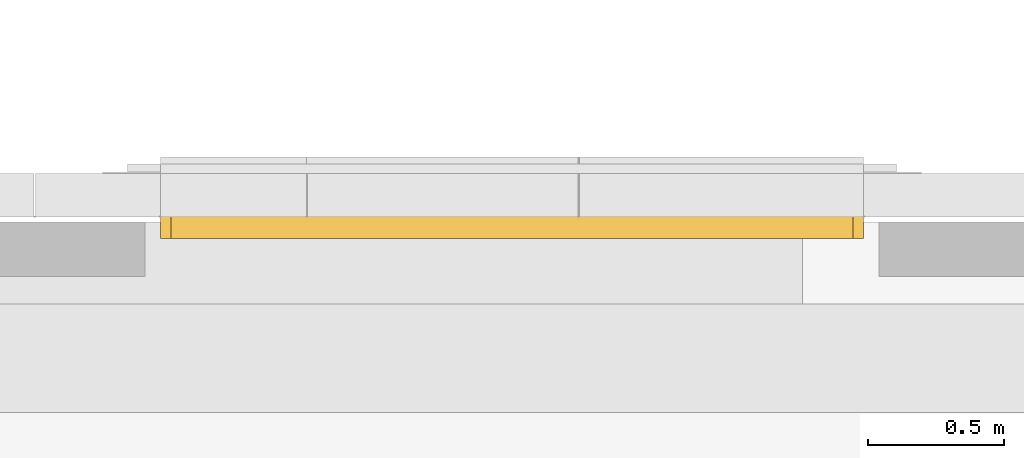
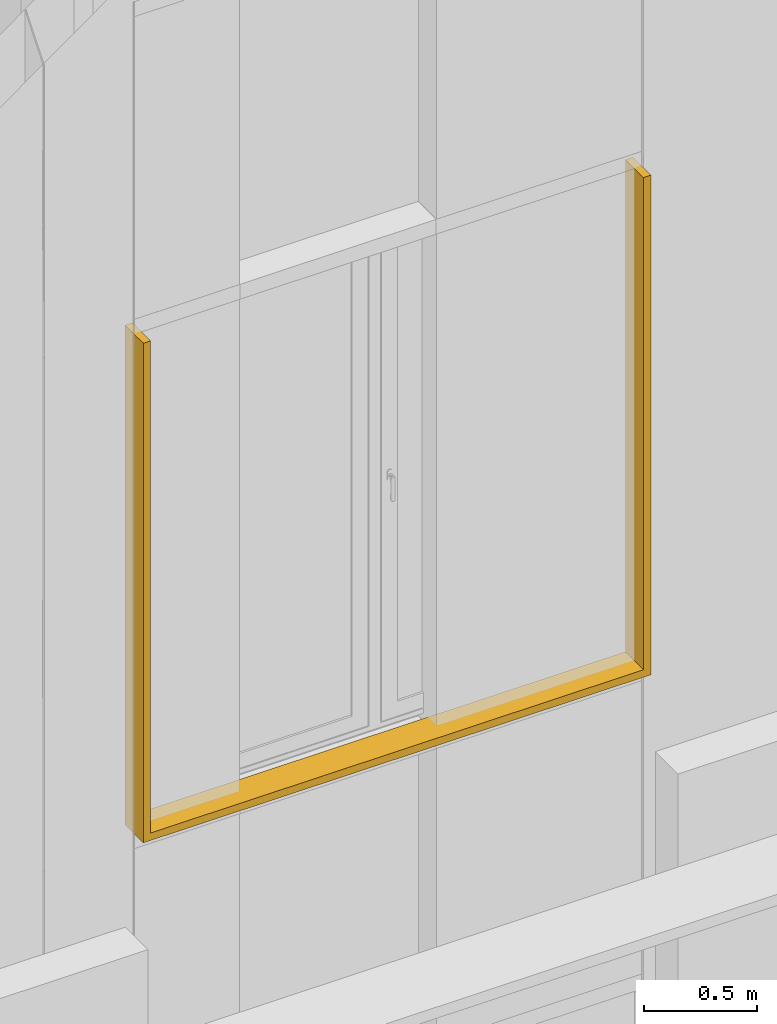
# One storey, part 238 of 302: 1 curtain wall, 1 opening, 1 element without a shape of its own.
"""IFC2X3 building model written with IfcOpenShell, lengths in metres."""

from ifc_helpers import new_model, entity, si_unit, converted_unit, derived_unit, direction, frame, frame_2d, origin, place, context, subcontext, project, spatial, rectangle, extrude, faceted_brep, material, layer, layer_set, layer_usage, type_object, element, aggregate, save


model = new_model("IFC2X3")

# Units and contexts
model_context = context("Model", 3, precision=1e-05, world=origin(), true_north=direction((6.12303176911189e-17, 1.0)))
body_context = subcontext(model_context, "Body", "Model", "MODEL_VIEW")
ifc_project = project(units=[si_unit("LENGTHUNIT", "METRE"), si_unit("AREAUNIT", "SQUARE_METRE"), si_unit("VOLUMEUNIT", "CUBIC_METRE"), converted_unit("PLANEANGLEUNIT", "DEGREE", entity("IfcRatioMeasure", 0.0174532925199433), si_unit("PLANEANGLEUNIT", "RADIAN"), dimensions=[0, 0, 0, 0, 0, 0, 0]), si_unit("MASSUNIT", "GRAM", prefix="KILO"), derived_unit("MASSDENSITYUNIT", [(si_unit("MASSUNIT", "GRAM", prefix="KILO"), 1), (si_unit("LENGTHUNIT", "METRE"), -3)]), derived_unit("MOMENTOFINERTIAUNIT", [(si_unit("LENGTHUNIT", "METRE"), 4)]), si_unit("TIMEUNIT", "SECOND"), si_unit("FREQUENCYUNIT", "HERTZ"), si_unit("THERMODYNAMICTEMPERATUREUNIT", "DEGREE_CELSIUS"), derived_unit("THERMALTRANSMITTANCEUNIT", [(si_unit("MASSUNIT", "GRAM", prefix="KILO"), 1), (si_unit("THERMODYNAMICTEMPERATUREUNIT", "KELVIN"), -1), (si_unit("TIMEUNIT", "SECOND"), -3)]), derived_unit("VOLUMETRICFLOWRATEUNIT", [(si_unit("LENGTHUNIT", "METRE"), 3), (si_unit("TIMEUNIT", "SECOND"), -1)]), si_unit("ELECTRICCURRENTUNIT", "AMPERE"), si_unit("ELECTRICVOLTAGEUNIT", "VOLT"), si_unit("POWERUNIT", "WATT"), si_unit("FORCEUNIT", "NEWTON", prefix="KILO"), si_unit("ILLUMINANCEUNIT", "LUX"), si_unit("LUMINOUSFLUXUNIT", "LUMEN"), si_unit("LUMINOUSINTENSITYUNIT", "CANDELA"), derived_unit("USERDEFINED", [(si_unit("MASSUNIT", "GRAM", prefix="KILO"), -1), (si_unit("LENGTHUNIT", "METRE"), -2), (si_unit("TIMEUNIT", "SECOND"), 3), (si_unit("LUMINOUSFLUXUNIT", "LUMEN"), 1)]), derived_unit("LINEARVELOCITYUNIT", [(si_unit("LENGTHUNIT", "METRE"), 1), (si_unit("TIMEUNIT", "SECOND"), -1)]), si_unit("PRESSUREUNIT", "PASCAL"), derived_unit("USERDEFINED", [(si_unit("LENGTHUNIT", "METRE"), -2), (si_unit("MASSUNIT", "GRAM", prefix="KILO"), 1), (si_unit("TIMEUNIT", "SECOND"), -2)]), derived_unit("LINEARFORCEUNIT", [(si_unit("MASSUNIT", "GRAM", prefix="KILO"), 1), (si_unit("LENGTHUNIT", "METRE"), 1), (si_unit("TIMEUNIT", "SECOND"), -2), (si_unit("LENGTHUNIT", "METRE"), -1)]), derived_unit("PLANARFORCEUNIT", [(si_unit("MASSUNIT", "GRAM", prefix="KILO"), 1), (si_unit("LENGTHUNIT", "METRE"), 1), (si_unit("TIMEUNIT", "SECOND"), -2), (si_unit("LENGTHUNIT", "METRE"), -2)])], contexts=[model_context])

# Site, building, storey
site_placement = place(None, origin())
site = spatial("IfcSite", under=ifc_project, at=site_placement, Name="Default", CompositionType="ELEMENT")
building_placement = place(site_placement, origin())
building = spatial("IfcBuilding", under=site, at=building_placement, CompositionType="ELEMENT")
storey_placement = place(building_placement, frame((0.0, 0.0, -1.3)))
storey = spatial("IfcBuildingStorey", under=building, at=storey_placement, Name="00_EG", CompositionType="ELEMENT", Elevation=-1.3)

# Curtain walls, opening
curtain_wall_type_1 = type_object("IfcCurtainWallType", Name="Fassade:Curtain Wall 1", PredefinedType="NOTDEFINED")
curtain_wall_1_placement = place(storey_placement, frame((0.0, 0.0, 1.3)))
curtain_wall_1 = element("IfcCurtainWall", 1, at=curtain_wall_1_placement, inside=storey, type_object=curtain_wall_type_1, Name="Fassade:Curtain Wall 1", ObjectType="Fassade:Curtain Wall 1")
ifc_material_1 = material(Name="Prepainted_Steel-ArcelorMittal_Construction_HAIRULTRA-35-CORAL-4309-[RAL_3000]")
ifc_layer_1 = layer(ifc_material_1, 0.015)
ifc_material_2 = material(Name="ArcelorMittal-MineralWool")
ifc_layer_2 = layer(ifc_material_2, 0.13)
ifc_material_3 = material(Name="Prepainted_Steel-ArcelorMittal_Construction_INTÉRIEUR-12-WHITE-912")
ifc_layer_3 = layer(ifc_material_3, 0.015)
ifc_layer_set = layer_set([ifc_layer_1, ifc_layer_2, ifc_layer_3], Name="Fassade:Sandwichpaneele 16cm")
ifc_layer_usage = layer_usage(ifc_layer_set, "AXIS2", "POSITIVE", -0.08)
curtain_wall_type_2 = type_object("IfcCurtainWallType", Name="Basiswand:Sandwichpaneele d = 16cm aussen", PredefinedType="NOTDEFINED", material=ifc_layer_set)
curtain_wall_2_placement = place(storey_placement, frame((-210.562611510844, 45.578088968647, 5.76999999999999), z_axis=(0.0, 0.0, 1.0), x_axis=(-1.0, 0.0, 0.0)))
curtain_wall_2 = element("IfcCurtainWall", 2, at=curtain_wall_2_placement, type_object=curtain_wall_type_2, material=ifc_layer_usage, Name="Basiswand:Sandwichpaneele d = 16cm aussen", ObjectType="Basiswand:Sandwichpaneele d = 16cm aussen", context=body_context, shape_type="SweptSolid", body=[
    extrude(rectangle(XDim=2.58500000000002, YDim=0.159999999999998, at=frame_2d((1.29250000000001, 0.0), x_axis=(-1.0, 0.0))), origin(), (0.0, 0.0, 1.0), 2.69),
])
opening_placement = place(curtain_wall_2_placement, frame((2.54750000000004, 0.0799999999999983, 0.0299999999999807), z_axis=(0.0, 0.0, 1.0), x_axis=(-1.0, 0.0, 0.0)))
element("IfcOpeningElement", 3, at=opening_placement, cuts=curtain_wall_2, Name="Basiswand:Sandwichpaneele d = 16cm aussen", ObjectType="Opening", context=body_context, shape_type="Brep", body=[
    faceted_brep([(2.50999999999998, 0.0, 2.66000000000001), (2.51000000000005, 0.320000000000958, 2.66000000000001), (0.0, 0.320000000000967, 2.66000000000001), (0.0, 0.0, 2.66000000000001), (0.0, 0.267099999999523, 0.010000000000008), (2.50999999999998, 0.267100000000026, 0.010000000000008), (2.50999999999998, 0.0, 0.010000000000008), (0.0, 0.0, 0.010000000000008), (0.0, 0.320000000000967, 0.0), (2.50999999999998, 0.320000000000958, 0.0)], [[[0, 1, 2, 3]], [[4, 5, 6, 7]], [[2, 8, 4, 7, 3]], [[3, 7, 6, 0]], [[0, 6, 5, 9, 1]], [[1, 9, 8, 2]], [[9, 5, 4, 8]]]),
])
aggregate(curtain_wall_1, [curtain_wall_2])

save(model, "model.ifc")
